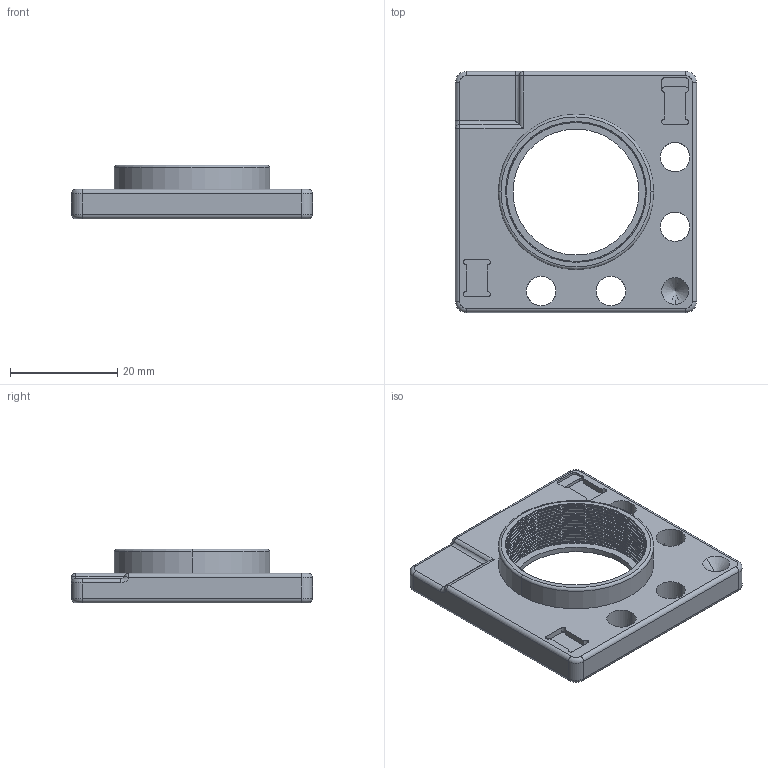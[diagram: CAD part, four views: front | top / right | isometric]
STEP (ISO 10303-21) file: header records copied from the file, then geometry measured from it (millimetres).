
FILE_DESCRIPTION (( 'STEP AP214' ), '1' );
FILE_NAME ('2.STEP', '2024-10-22T06:45:29', ( '' ), ( '' ), 'SwSTEP 2.0', 'SolidWorks 2024', '' );
FILE_SCHEMA (( 'AUTOMOTIVE_DESIGN' ));
Length unit declared in the file: millimetre
Products named in the file (1): 2
Bounding box: 45 x 45 x 10 mm (x, y, z)
Volume: 7918.7 mm3; surface area: 5760.2 mm2
Topology: 1 solids, 1 shells, 167 faces, 432 edges, 267 vertices
Faces by surface type: cylinder 79, plane 54, cone 17, torus 12, bspline 3, sphere 2
Entity records: 6661 total; most frequent: CARTESIAN_POINT 2686, ORIENTED_EDGE 858, DIRECTION 823, EDGE_CURVE 429, AXIS2_PLACEMENT_3D 311, VERTEX_POINT 267, LINE 201, VECTOR 201
